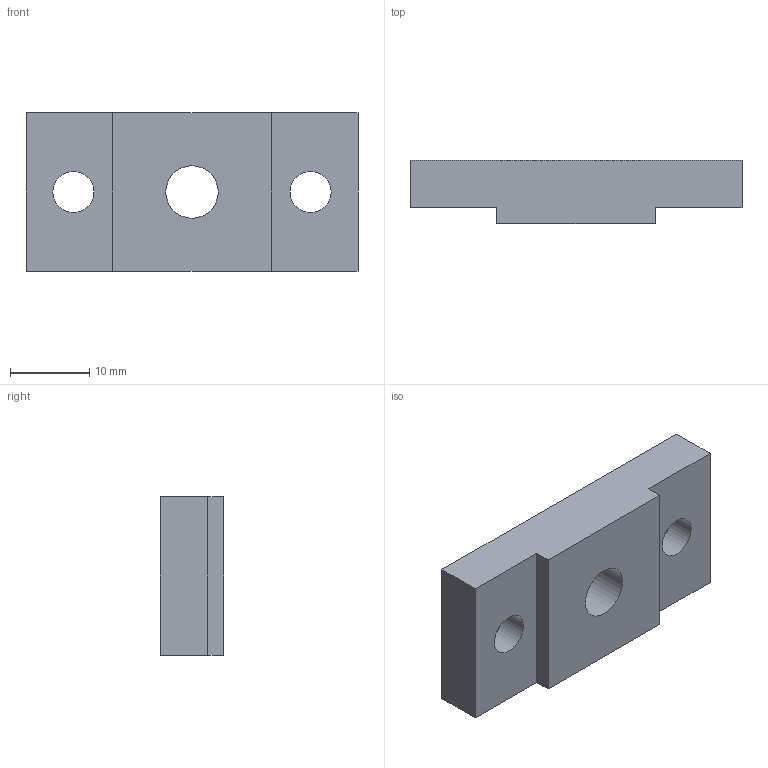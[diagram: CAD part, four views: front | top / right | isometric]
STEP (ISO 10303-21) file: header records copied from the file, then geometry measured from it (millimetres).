
FILE_DESCRIPTION(/* description */ ('PLATE'),/* implementation_level */ '2;1');
FILE_NAME(/* name */ 'C:\Users\Apardo\Documents\Proyectos\Dietrich\Proyecto 1\PLATE ROLLING MACHINE\STEP\1.5 plate.stp',/* time_stamp */ '2020-11-03T20:38:44-04:00',/* author */ ('Apardo'),/* organization */ ('9'),/* preprocessor_version */ 'ST-DEVELOPER v18',/* originating_system */ 'Autodesk Inventor 2020',/* authorisation */ '');
FILE_SCHEMA (('AUTOMOTIVE_DESIGN { 1 0 10303 214 3 1 1 }'));
Length unit declared in the file: millimetre
Products named in the file (1): plate
Bounding box: 42 x 8 x 20 mm (x, y, z)
Volume: 5184.5 mm3; surface area: 2761.8 mm2
Topology: 1 solids, 1 shells, 15 faces, 43 edges, 30 vertices
Faces by surface type: plane 10, cylinder 3, cone 2
Full cylindrical faces by diameter (mm): 5.2 x2, 6.647 x1
Entity records: 556 total; most frequent: DIRECTION 89, CARTESIAN_POINT 89, ORIENTED_EDGE 86, EDGE_CURVE 43, VERTEX_POINT 30, AXIS2_PLACEMENT_3D 30, LINE 29, VECTOR 29
